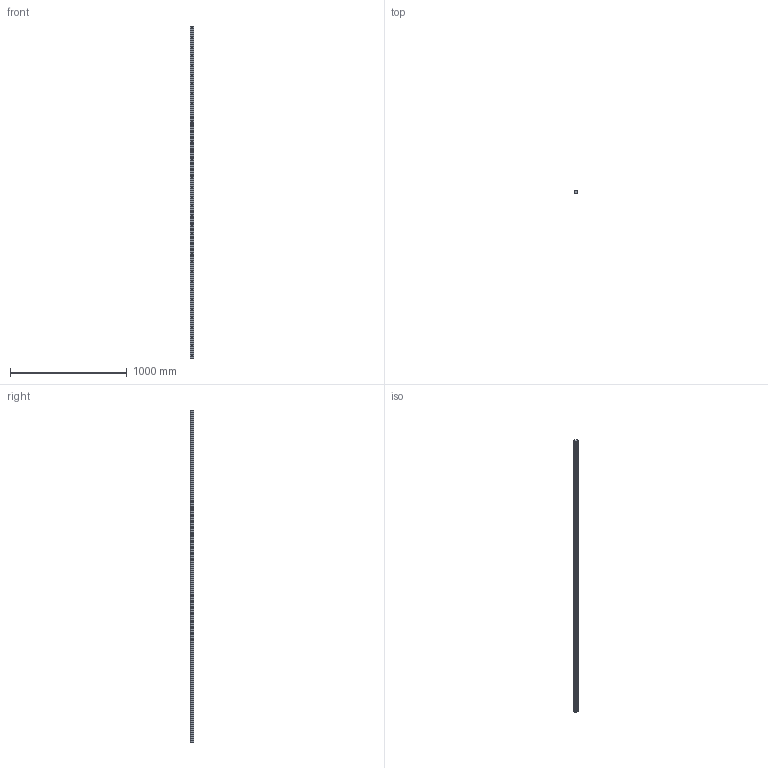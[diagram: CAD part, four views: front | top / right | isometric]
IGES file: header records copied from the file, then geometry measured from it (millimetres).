
Start section: SolidWorks IGES file using analytic representation for surfaces
Global section: file name: C:\Users\IanO\Desktop\Temp File\GENERAL\L1016_v2\L1016.RF35_v2\L1016.RF35_v2_20190612_IGES\L1016.RF35-2840.igs; native system: SolidWorks 2017; preprocessor: SolidWorks 2017; author: IanO; date: 190613.173144; units: millimetre
Bounding box: 34 x 26 x 2840 mm (x, y, z)
Surface area: 370037.9 mm2 (no closed solid volume)
Topology: 0 solids, 0 shells, 278 faces, 4488 edges, 4416 vertices
Faces by surface type: revolution 220, bspline 58
